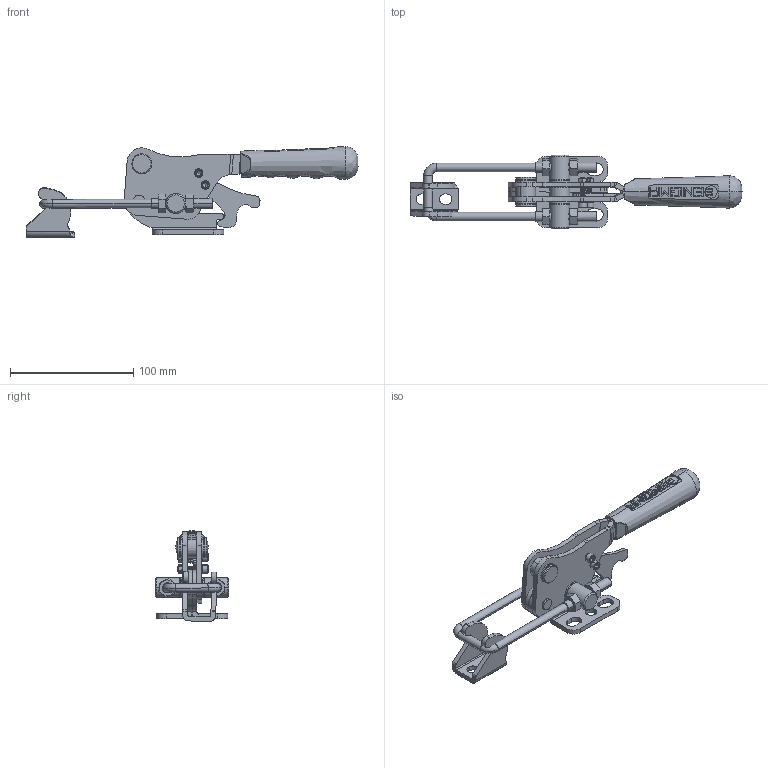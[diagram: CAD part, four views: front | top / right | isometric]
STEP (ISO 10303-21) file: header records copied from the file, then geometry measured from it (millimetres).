
FILE_DESCRIPTION (( 'STEP AP203' ), '1' );
FILE_NAME ('13108_Y_K.STEP', '2022-11-30T08:49:37', ( '' ), ( '' ), 'SwSTEP 2.0', 'SolidWorks 2023', '' );
FILE_SCHEMA (( 'CONFIG_CONTROL_DESIGN' ));
Length unit declared in the file: millimetre
Products named in the file (15): Mirror2022_13108_13110_Y_G_X2_00d6_X0_VDE_1; 2022_13108_13110_Y_G_X2_00d6_X0_VDE_1; M4_S; M8_M10_KK; 13108_H.KOLU_2022_Varsay_X2_0131_X0_lan; _X2_00d8_X0_6x18_P(PER_X2_00c70130_X0_N)_Varsay_X2_0131_X0_lan; 13108_OTOMAT_2_Varsay_X2_0131_X0_lan; M8 Somun; 13108_Y_K; M8x50_U_KANCA_Varsayılan; Mirror13108_H.KOLU_2022_Varsay_X2_0131_X0_lan; S_M4x20 Imbus Civata; 13108_OTOMAT_Varsay_X2_0131_X0_lan; 13108_K_X2_0130_X0_L_X2_0130_X0_T_MEKAN_X2_0130_X0_ZMASI; C95_Yeni_Tutamak_Varsay_X2_0131_X0_lan
Assembly tree (19 placements, depth 2):
  13108_Y_K
    2022_13108_13110_Y_G_X2_00d6_X0_VDE_1
    13108_K_X2_0130_X0_L_X2_0130_X0_T_MEKAN_X2_0130_X0_ZMASI
    13108_H.KOLU_2022_Varsay_X2_0131_X0_lan
    Mirror13108_H.KOLU_2022_Varsay_X2_0131_X0_lan
    Mirror2022_13108_13110_Y_G_X2_00d6_X0_VDE_1
    C95_Yeni_Tutamak_Varsay_X2_0131_X0_lan
    S_M4x20 Imbus Civata  x2
    _X2_00d8_X0_6x18_P(PER_X2_00c70130_X0_N)_Varsay_X2_0131_X0_lan
    M8 Somun  x4
    M4_S  x2
    13108_OTOMAT_Varsay_X2_0131_X0_lan
    M8_M10_KK
    13108_OTOMAT_2_Varsay_X2_0131_X0_lan
    M8x50_U_KANCA_Varsayılan
Bounding box: 269.44 x 60 x 73.59 mm (x, y, z)
Volume: 133337.3 mm3; surface area: 74079.3 mm2
Topology: 17 solids, 25 shells, 863 faces, 2227 edges, 1421 vertices
Faces by surface type: cylinder 349, plane 344, cone 86, bspline 80, torus 4
Entity records: 47687 total; most frequent: CARTESIAN_POINT 30057, ORIENTED_EDGE 3434, DIRECTION 3149, EDGE_CURVE 1721, AXIS2_PLACEMENT_3D 1119, VERTEX_POINT 1102, VECTOR 911, LINE 911
